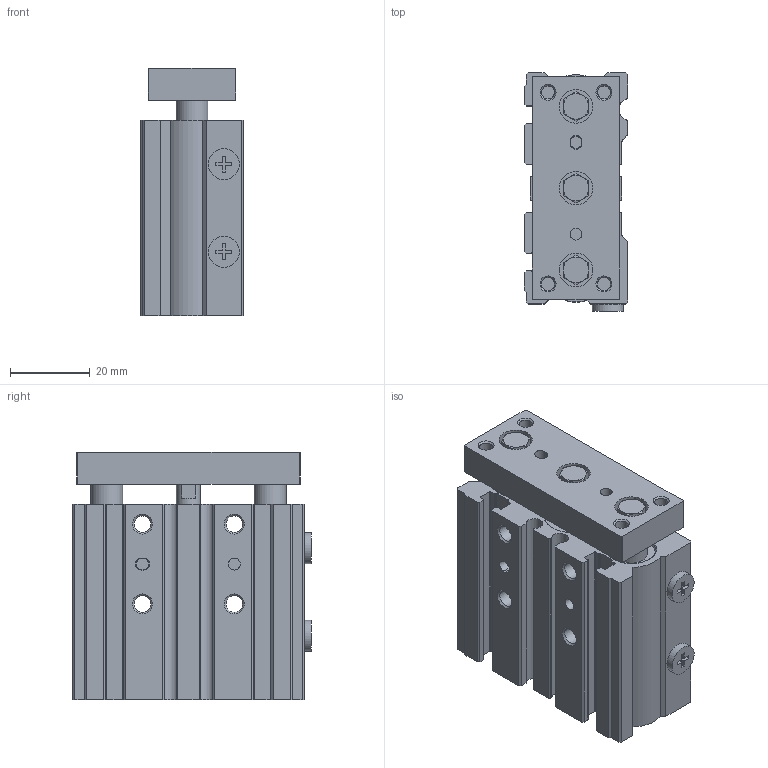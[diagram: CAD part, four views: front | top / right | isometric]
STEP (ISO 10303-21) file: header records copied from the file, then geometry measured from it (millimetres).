
FILE_DESCRIPTION( ( 'STEP AP214' ), '1' );
FILE_NAME( 'C:/Users/emc02044/Desktop/SGL SGM/SGM12X20-S.stp', '2026-07-24T00:57:57', ( 'License CC BY-ND 4.0' ), ( 'CADENAS' ), ' ', 'PARTsolutions', ' ' );
FILE_SCHEMA( ( 'AUTOMOTIVE_DESIGN { 1 0 10303 214 1 1 1 1 }' ) );
Length unit declared in the file: millimetre
Products named in the file (4): SGM12X20X0-S(); _SGM12x20-M(SG:Shaft cylinderM12X20X0-S:with magnet()dummy-0) 0; _SGM12x20-M(-0)-body; _SGM12x20-M(-0)-rod
Assembly tree (3 placements, depth 2):
  SGM12X20X0-S()
    _SGM12x20-M(SG:Shaft cylinderM12X20X0-S:with magnet()dummy-0) 0
    _SGM12x20-M(-0)-body
    _SGM12x20-M(-0)-rod
Bounding box: 26 x 59.8 x 62 mm (x, y, z)
Volume: 65345.7 mm3; surface area: 29677 mm2
Topology: 2 solids, 4 shells, 354 faces, 863 edges, 556 vertices
Faces by surface type: plane 186, cylinder 107, cone 61
Full cylindrical faces by diameter (mm): 3 x6, 3.242 x8, 4.134 x8, 4.2 x4, 6 x2, 7.8 x2, 8 x8, 8.39 x3, 10 x2, 11.8 x1, 12 x1, 12.1 x2, 14 x1, 14.54 x1
Entity records: 12924 total; most frequent: CARTESIAN_POINT 1971, DIRECTION 1682, ORIENTED_EDGE 1550, EDGE_CURVE 775, AXIS2_PLACEMENT_3D 637, VERTEX_POINT 541, EDGE_LOOP 486, LINE 408
